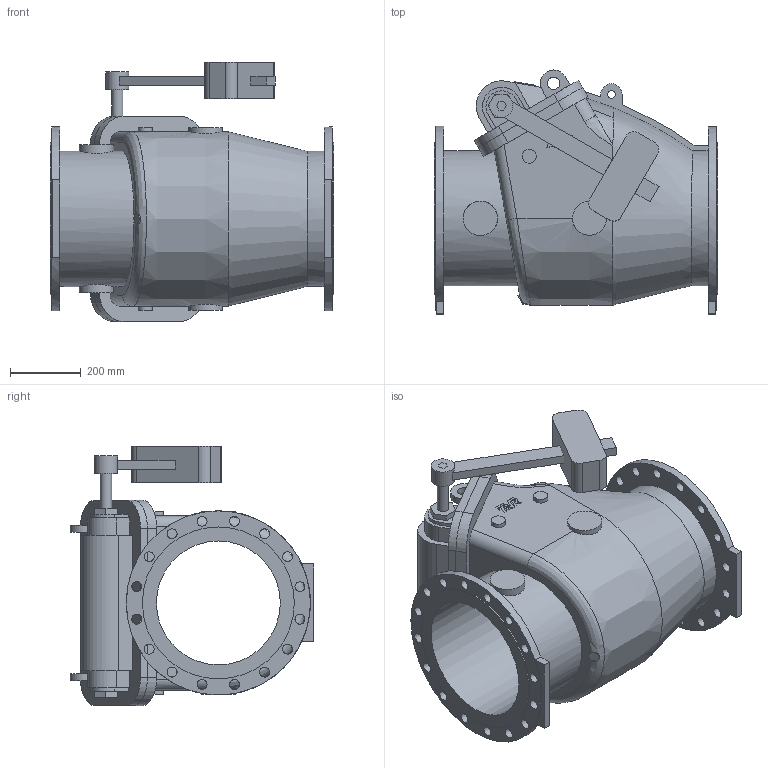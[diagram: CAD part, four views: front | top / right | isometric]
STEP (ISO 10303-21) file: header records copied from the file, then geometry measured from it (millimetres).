
FILE_DESCRIPTION (( 'STEP AP203' ), '1' );
FILE_NAME ('O_41_36_DN350_X1XXX_AA0.step', '2018-08-16T08:31:26', ( 'Windows User' ), ( 'AVK' ), 'SwSTEP 2.0', 'SolidWorks 2012', '' );
FILE_SCHEMA (( 'CONFIG_CONTROL_DESIGN' ));
Length unit declared in the file: millimetre
Products named in the file (1): O_41_36_DN350_X1XXX_AA0
Bounding box: 800 x 688.73 x 732 mm (x, y, z)
Volume: 90851094.2 mm3; surface area: 3250733.4 mm2
Topology: 1 solids, 1 shells, 314 faces, 850 edges, 570 vertices
Faces by surface type: plane 218, cylinder 85, bspline 11
Full cylindrical faces by diameter (mm): 22 x1, 28 x32, 30 x1, 32 x1, 35 x2, 40 x4, 65 x1, 96 x2, 97 x2, 350 x1, 382 x1, 429 x2, 520 x2
Entity records: 29063 total; most frequent: CARTESIAN_POINT 21265, ORIENTED_EDGE 1544, DIRECTION 1493, EDGE_CURVE 772, LINE 559, VECTOR 559, VERTEX_POINT 545, EDGE_LOOP 473
